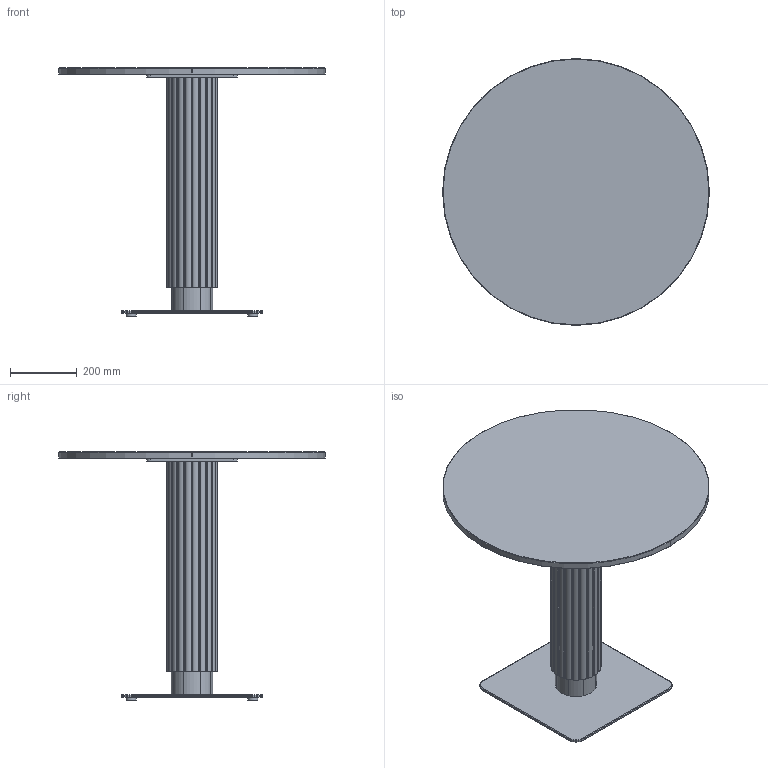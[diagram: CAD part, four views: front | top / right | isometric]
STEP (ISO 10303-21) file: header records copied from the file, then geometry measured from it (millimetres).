
FILE_DESCRIPTION( ('This file contains a STEP AP42 implementation' ,'as created by ZW3D STEP Interface translator.') ,'2;1' );
FILE_NAME( 'God - B_Carré - F1 - M1 - 800 x 800 x 750.stp' ,'24 912. 85835', (''), ('ZWCAD Software Co.'), 'Version 1.0', 'ZW3D to STEP translator', '' );
FILE_SCHEMA(('AUTOMOTIVE_DESIGN { 1 0 10303 214 1 1 1 1 }'));
Length unit declared in the file: millimetre
Products named in the file (15): 0; PIED BISTROT PARAMETRIQUE_; CROIX ACIER 370 V.02_; CRX-X370-02_; SOCLE ACIER L 425x425 V.02_; SCL-R425-02_; PLA-R30A-01_; PLA-R30A-01; COLONNE ACIER Ø48.5 V.02_; TUB-D048-02_; PLA-R48A-01_; Colonne GODRON H700_; WUERTH 0276063020 Euro-screw 6.3x2 Verzinkt_; PLATEAU BISTROT PARAMETRIQUE_; insert_m6_13_
Assembly tree (23 placements, depth 3):
  0
  PIED BISTROT PARAMETRIQUE_
    CROIX ACIER 370 V.02_
      CRX-X370-02_
    SOCLE ACIER L 425x425 V.02_
      SCL-R425-02_
      PLA-R30A-01_
      PLA-R30A-01  x3
    COLONNE ACIER Ø48.5 V.02_
      TUB-D048-02_
      PLA-R48A-01_  x2
    Colonne GODRON H700_
    WUERTH 0276063020 Euro-screw 6.3x2 Verzinkt_
    PLATEAU BISTROT PARAMETRIQUE_
      insert_m6_13_  x8
Bounding box: 800 x 800 x 744 mm (x, y, z)
Volume: 22550076.9 mm3; surface area: 2839995.4 mm2
Topology: 27 solids, 27 shells, 669 faces, 1662 edges, 1062 vertices
Faces by surface type: plane 302, cylinder 192, bspline 121, cone 53, torus 1
Full cylindrical faces by diameter (mm): 4.88 x1, 6 x8, 6.3 x1, 8 x45, 12 x2, 14 x2, 30 x4, 44.5 x3, 48.5 x1
Entity records: 16810 total; most frequent: CARTESIAN_POINT 4133, DIRECTION 2344, ORIENTED_EDGE 2338, EDGE_CURVE 1169, AXIS2_PLACEMENT_3D 829, VERTEX_POINT 756, VECTOR 686, LINE 686
